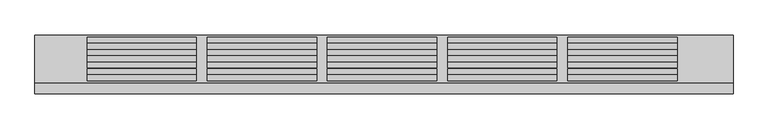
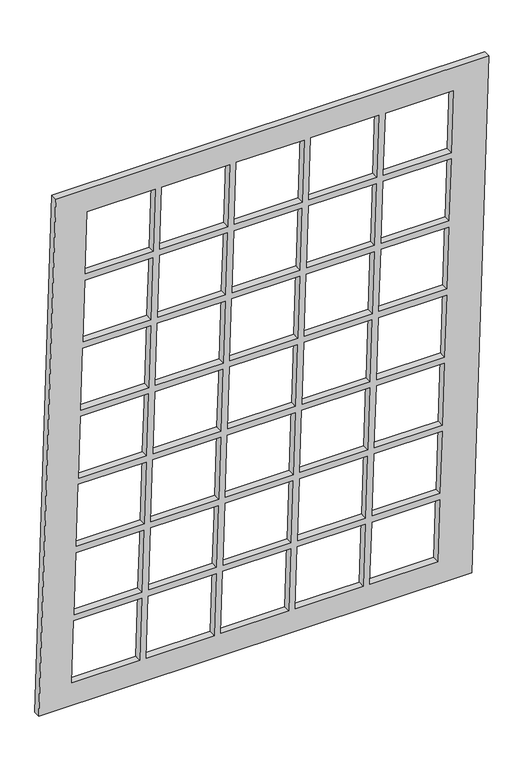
"""IFC4 building model written with IfcOpenShell, lengths in millimetres: furniture geometry, Kletteranlage : Kletteranlage."""

import ifcopenshell
import ifcopenshell.guid

model = None  # the IFC model being written
_history = None  # IfcOwnerHistory: only IFC2X3 demands one
_inside = {}  # id of a spatial element -> (the spatial element, [elements in it])
_under = {}  # id of a project, library or spatial element -> (it, [spatial elements below it])
_declared = {}  # id of a project -> (the project, [libraries it declares])
_typed = {}  # id of a type object -> (the type object, [elements of that type])
_made_of = {}  # id of a material, layer set ... -> (it, [elements and type objects made of it])


def new_model(schema):
    """Start an empty IFC model of exactly this schema.

    Asked for "IFC4X3", IfcOpenShell would pick the latest addendum, in which some entities
    have other attributes; the version numbers below select the first issue.
    IFC2X3 requires an IfcOwnerHistory on every rooted entity: one is made here for all.
    """
    global model, _history
    if schema == "IFC4X3":
        model = ifcopenshell.file(schema_version=(4, 3, 0, 0))
    else:
        model = ifcopenshell.file(schema=schema)
    _inside.clear()
    _under.clear()
    _declared.clear()
    _typed.clear()
    _made_of.clear()
    _history = None
    if model.schema == "IFC2X3":
        org = make("IfcOrganization", Name="unknown")
        user = make(
            "IfcPersonAndOrganization",
            ThePerson=make("IfcPerson", FamilyName="unknown"),
            TheOrganization=org,
        )
        app = make(
            "IfcApplication",
            ApplicationDeveloper=org,
            Version="unknown",
            ApplicationFullName="unknown",
            ApplicationIdentifier="unknown",
        )
        _history = make(
            "IfcOwnerHistory",
            OwningUser=user,
            OwningApplication=app,
            ChangeAction="ADDED",
            CreationDate=0,
        )
    return model


def make(cls, **values):
    """One entity of the class cls with the attributes given. An attribute that is None is left unset."""
    return model.create_entity(
        cls, **{name: value for name, value in values.items() if value is not None}
    )


def rooted(cls, **values):
    """An entity with a GlobalId (a new one), such as an element, a storey or a relation."""
    return make(cls, GlobalId=ifcopenshell.guid.new(), OwnerHistory=_history, **values)


def si_unit(unit_type, name, prefix=None):
    """IfcSIUnit, for example si_unit("LENGTHUNIT", "METRE", prefix="MILLI")."""
    return make("IfcSIUnit", UnitType=unit_type, Prefix=prefix, Name=name)


def assignment(units):
    """IfcUnitAssignment: the units of a project."""
    return None if units is None else make("IfcUnitAssignment", Units=units)


def point(xyz):
    """IfcCartesianPoint."""
    return None if xyz is None else make("IfcCartesianPoint", Coordinates=xyz)


def direction(xyz):
    """IfcDirection."""
    return None if xyz is None else make("IfcDirection", DirectionRatios=xyz)


def frame(location, z_axis=None, x_axis=None):
    """IfcAxis2Placement3D, a coordinate frame: its origin and axes. An axis left out is left unset."""
    return make(
        "IfcAxis2Placement3D",
        Location=point(location),
        Axis=direction(z_axis),
        RefDirection=direction(x_axis),
    )


def origin():
    """The frame at (0, 0, 0) with its axes left unset."""
    return frame((0.0, 0.0, 0.0))


def place(relative_to, where):
    """IfcLocalPlacement: puts the frame where relative to a parent placement (None: the world)."""
    return make(
        "IfcLocalPlacement", PlacementRelTo=relative_to, RelativePlacement=where
    )


def context(
    kind, dimensions, precision=None, world=None, true_north=None, identifier=None
):
    """IfcGeometricRepresentationContext, for example the 3D "Model" context."""
    return make(
        "IfcGeometricRepresentationContext",
        ContextIdentifier=identifier,
        ContextType=kind,
        CoordinateSpaceDimension=dimensions,
        Precision=precision,
        WorldCoordinateSystem=world,
        TrueNorth=true_north,
    )


def project(units=None, contexts=None):
    """IfcProject with its units and contexts."""
    return rooted(
        "IfcProject",
        Name="project",
        RepresentationContexts=contexts,
        UnitsInContext=assignment(units),
    )


def spatial(cls, under=None, at=None, **own):
    """A site, building, storey or space (cls), placed at a placement, below another one or the project."""
    s = rooted(cls, ObjectPlacement=at, **own)
    if under is not None:
        _under.setdefault(under.id(), (under, []))[1].append(s)
    return s


def faces_of(points, faces, orient=None, outer=None):
    """IfcFace entities. A face is a list of loops; a loop is a list of indices into points, from 0.

    orient and outer hold one flag for each loop. By default every Orientation is true, the
    first loop of a face is its IfcFaceOuterBound and the others are IfcFaceBound.
    """
    made = []
    for i, loops in enumerate(faces):
        bounds = []
        for j, loop in enumerate(loops):
            is_outer = j == 0 if outer is None else outer[i][j]
            bounds.append(
                make(
                    "IfcFaceOuterBound" if is_outer else "IfcFaceBound",
                    Bound=make("IfcPolyLoop", Polygon=[points[k] for k in loop]),
                    Orientation=True if orient is None else orient[i][j],
                )
            )
        made.append(make("IfcFace", Bounds=bounds))
    return made


def faceted_brep(points, faces, orient=None, outer=None, voids=None):
    """IfcFacetedBrep: a solid bounded by flat faces; with voids (closed shells), ...WithVoids."""
    shared = [point(p) for p in points]
    hull = make("IfcClosedShell", CfsFaces=faces_of(shared, faces, orient, outer))
    if voids is None:
        return make("IfcFacetedBrep", Outer=hull)
    return make(
        "IfcFacetedBrepWithVoids",
        Outer=hull,
        Voids=[
            make(cls, CfsFaces=faces_of(shared, fs, o, b)) for cls, fs, o, b in voids
        ],
    )


def shape(context_of_items, identifier, shape_type, items):
    """IfcShapeRepresentation: the items that make up one representation, for example the "Body"."""
    return make(
        "IfcShapeRepresentation",
        ContextOfItems=context_of_items,
        RepresentationIdentifier=identifier,
        RepresentationType=shape_type,
        Items=items,
    )


def source(mapping_origin, context_of_items, identifier, shape_type, items):
    """IfcRepresentationMap: a shape defined once, which mapped items show again and again."""
    return make(
        "IfcRepresentationMap",
        MappingOrigin=mapping_origin,
        MappedRepresentation=shape(context_of_items, identifier, shape_type, items),
    )


def transform(
    local_origin,
    x_axis=None,
    y_axis=None,
    z_axis=None,
    scale=None,
    scale2=None,
    scale3=None,
    uniform=True,
):
    """IfcCartesianTransformationOperator3D, or its non-uniform kind. x_axis, y_axis, z_axis: its Axis1, 2, 3."""
    if uniform:
        return make(
            "IfcCartesianTransformationOperator3D",
            Axis1=direction(x_axis),
            Axis2=direction(y_axis),
            LocalOrigin=point(local_origin),
            Scale=scale,
            Axis3=direction(z_axis),
        )
    return make(
        "IfcCartesianTransformationOperator3DnonUniform",
        Axis1=direction(x_axis),
        Axis2=direction(y_axis),
        LocalOrigin=point(local_origin),
        Scale=scale,
        Axis3=direction(z_axis),
        Scale2=scale2,
        Scale3=scale3,
    )


def mapped(mapping_source, mapping_target):
    """IfcMappedItem: shows the shape of a source again, moved by a transform."""
    return make(
        "IfcMappedItem", MappingSource=mapping_source, MappingTarget=mapping_target
    )


def made_of(thing, what):
    """Note that an element or type object is made of a material, layer set ...; save() writes the relation."""
    if what is not None:
        _made_of.setdefault(what.id(), (what, []))[1].append(thing)
    return thing


def element(
    cls,
    number,
    at=None,
    inside=None,
    cuts=None,
    type_object=None,
    material=None,
    context=None,
    identifier="Body",
    shape_type=None,
    held_by="IfcProductDefinitionShape",
    body=None,
    shapes=None,
    **own,
):
    """One element of the class cls, such as IfcWall. Its Tag is "e" and its number.

    at: its placement. inside: the storey or other place that contains it. cuts: it is an
    opening in that element (IfcRelVoidsElement). A single representation is given by context,
    identifier, shape_type and body (its items); several are given by shapes. held_by: the class
    of the entity that holds the representations. save() writes the other relations.
    """
    e = rooted(cls, Tag="e%d" % number, ObjectPlacement=at, **own)
    if body is not None:
        shapes = [shape(context, identifier, shape_type, body)]
    if shapes is not None:
        e.Representation = make(held_by, Representations=shapes)
    if inside is not None:
        _inside.setdefault(inside.id(), (inside, []))[1].append(e)
    if cuts is not None:
        rooted(
            "IfcRelVoidsElement", RelatingBuildingElement=cuts, RelatedOpeningElement=e
        )
    if type_object is not None:
        _typed.setdefault(type_object.id(), (type_object, []))[1].append(e)
    return made_of(e, material)


def aggregate(whole, parts):
    """IfcRelAggregates: a whole, such as a stair, and the parts it consists of."""
    return rooted("IfcRelAggregates", RelatingObject=whole, RelatedObjects=parts)


def save(model, path):
    """Write the relations noted so far, then the file.

    IfcRelAggregates (storeys below a building ...), IfcRelContainedInSpatialStructure (elements
    in a storey), IfcRelDefinesByType, IfcRelAssociatesMaterial and IfcRelDeclares: one each for
    every whole, place, type object, material and project.
    """
    for whole, parts in _under.values():
        aggregate(whole, parts)
    for where, things in _inside.values():
        rooted(
            "IfcRelContainedInSpatialStructure",
            RelatedElements=things,
            RelatingStructure=where,
        )
    for kind, things in _typed.values():
        rooted("IfcRelDefinesByType", RelatedObjects=things, RelatingType=kind)
    for what, things in _made_of.values():
        rooted("IfcRelAssociatesMaterial", RelatedObjects=things, RelatingMaterial=what)
    for by, libraries in _declared.values():
        rooted("IfcRelDeclares", RelatingContext=by, RelatedDefinitions=libraries)
    model.write(path)


def furniture_e2d0ad92(model_context):
    return source(origin(), model_context, "Body", "Brep", [
        faceted_brep([(-958.8409407, -268.0468951, 2520.0), (957.5253808, -268.0468951, 2520.0), (957.5253808, -238.0057247, 2520.0), (-958.8409407, -238.0057247, 2520.0), (957.5253808, -137.0274469, 20.0), (-958.8409407, -137.0274469, 20.0), (-958.8409407, -106.9862765, 20.0), (957.5253808, -106.9862765, 20.0), (-815.8409407, -262.1029837, 2406.5834134), (-515.8409407, -262.1029837, 2406.5834134), (-515.8409407, -246.4021968, 2106.994553), (-815.8409407, -246.4021968, 2106.994553), (-485.8409407, -262.1029837, 2406.5834134), (-185.8409407, -262.1029837, 2406.5834134), (-185.8409407, -246.4021968, 2106.994553), (-485.8409407, -246.4021968, 2106.994553), (-155.8409407, -262.1029837, 2406.5834134), (144.1590593, -262.1029837, 2406.5834134), (144.1590593, -246.4021968, 2106.994553), (-155.8409407, -246.4021968, 2106.994553), (174.1590593, -262.1029837, 2406.5834134), (474.1590593, -262.1029837, 2406.5834134), (474.1590593, -246.4021968, 2106.994553), (174.1590593, -246.4021968, 2106.994553), (504.1590593, -262.1029837, 2406.5834134), (804.1590593, -262.1029837, 2406.5834134), (804.1590593, -246.4021968, 2106.994553), (504.1590593, -246.4021968, 2106.994553), (-815.8409407, -244.8321181, 2077.035667), (-515.8409407, -244.8321181, 2077.035667), (-515.8409407, -229.1313313, 1777.4468065), (-815.8409407, -229.1313313, 1777.4468065), (-485.8409407, -244.8321181, 2077.035667), (-185.8409407, -244.8321181, 2077.035667), (-185.8409407, -229.1313313, 1777.4468065), (-485.8409407, -229.1313313, 1777.4468065), (-155.8409407, -244.8321181, 2077.035667), (144.1590593, -244.8321181, 2077.035667), (144.1590593, -229.1313313, 1777.4468065), (-155.8409407, -229.1313313, 1777.4468065), (174.1590593, -244.8321181, 2077.035667), (474.1590593, -244.8321181, 2077.035667), (474.1590593, -229.1313313, 1777.4468065), (174.1590593, -229.1313313, 1777.4468065), (504.1590593, -244.8321181, 2077.035667), (804.1590593, -244.8321181, 2077.035667), (804.1590593, -229.1313313, 1777.4468065), (504.1590593, -229.1313313, 1777.4468065), (-815.8409407, -227.5612526, 1747.4879205), (-515.8409407, -227.5612526, 1747.4879205), (-515.8409407, -211.8604657, 1447.8990601), (-815.8409407, -211.8604657, 1447.8990601), (-485.8409407, -227.5612526, 1747.4879205), (-185.8409407, -227.5612526, 1747.4879205), (-185.8409407, -211.8604657, 1447.8990601), (-485.8409407, -211.8604657, 1447.8990601), (-155.8409407, -227.5612526, 1747.4879205), (144.1590593, -227.5612526, 1747.4879205), (144.1590593, -211.8604657, 1447.8990601), (-155.8409407, -211.8604657, 1447.8990601), (174.1590593, -227.5612526, 1747.4879205), (474.1590593, -227.5612526, 1747.4879205), (474.1590593, -211.8604657, 1447.8990601), (174.1590593, -211.8604657, 1447.8990601), (504.1590593, -227.5612526, 1747.4879205), (804.1590593, -227.5612526, 1747.4879205), (804.1590593, -211.8604657, 1447.8990601), (504.1590593, -211.8604657, 1447.8990601), (-815.8409407, -210.290387, 1417.940174), (-515.8409407, -210.290387, 1417.940174), (-515.8409407, -194.5896001, 1118.3513136), (-815.8409407, -194.5896001, 1118.3513136), (-485.8409407, -210.290387, 1417.940174), (-185.8409407, -210.290387, 1417.940174), (-185.8409407, -194.5896001, 1118.3513136), (-485.8409407, -194.5896001, 1118.3513136), (-155.8409407, -210.290387, 1417.940174), (144.1590593, -210.290387, 1417.940174), (144.1590593, -194.5896001, 1118.3513136), (-155.8409407, -194.5896001, 1118.3513136), (174.1590593, -210.290387, 1417.940174), (474.1590593, -210.290387, 1417.940174), (474.1590593, -194.5896001, 1118.3513136), (174.1590593, -194.5896001, 1118.3513136), (504.1590593, -210.290387, 1417.940174), (804.1590593, -210.290387, 1417.940174), (804.1590593, -194.5896001, 1118.3513136), (504.1590593, -194.5896001, 1118.3513136), (-815.8409407, -193.0195215, 1088.3924275), (-515.8409407, -193.0195215, 1088.3924275), (-515.8409407, -177.3187346, 788.8035671), (-815.8409407, -177.3187346, 788.8035671), (-485.8409407, -193.0195215, 1088.3924275), (-185.8409407, -193.0195215, 1088.3924275), (-185.8409407, -177.3187346, 788.8035671), (-485.8409407, -177.3187346, 788.8035671), (-155.8409407, -193.0195215, 1088.3924275), (144.1590593, -193.0195215, 1088.3924275), (144.1590593, -177.3187346, 788.8035671), (-155.8409407, -177.3187346, 788.8035671), (174.1590593, -193.0195215, 1088.3924275), (474.1590593, -193.0195215, 1088.3924275), (474.1590593, -177.3187346, 788.8035671), (174.1590593, -177.3187346, 788.8035671), (504.1590593, -193.0195215, 1088.3924275), (804.1590593, -193.0195215, 1088.3924275), (804.1590593, -177.3187346, 788.8035671), (504.1590593, -177.3187346, 788.8035671), (-815.8409407, -175.7486559, 758.8446811), (-515.8409407, -175.7486559, 758.8446811), (-515.8409407, -160.047869, 459.2558206), (-815.8409407, -160.047869, 459.2558206), (-485.8409407, -175.7486559, 758.8446811), (-185.8409407, -175.7486559, 758.8446811), (-185.8409407, -160.047869, 459.2558206), (-485.8409407, -160.047869, 459.2558206), (-155.8409407, -175.7486559, 758.8446811), (144.1590593, -175.7486559, 758.8446811), (144.1590593, -160.047869, 459.2558206), (-155.8409407, -160.047869, 459.2558206), (174.1590593, -175.7486559, 758.8446811), (474.1590593, -175.7486559, 758.8446811), (474.1590593, -160.047869, 459.2558206), (174.1590593, -160.047869, 459.2558206), (504.1590593, -175.7486559, 758.8446811), (804.1590593, -175.7486559, 758.8446811), (804.1590593, -160.047869, 459.2558206), (504.1590593, -160.047869, 459.2558206), (-815.8409407, -158.4777903, 429.2969346), (-515.8409407, -158.4777903, 429.2969346), (-515.8409407, -142.7770035, 129.7080742), (-815.8409407, -142.7770035, 129.7080742), (-485.8409407, -158.4777903, 429.2969346), (-185.8409407, -158.4777903, 429.2969346), (-185.8409407, -142.7770035, 129.7080742), (-485.8409407, -142.7770035, 129.7080742), (-155.8409407, -158.4777903, 429.2969346), (144.1590593, -158.4777903, 429.2969346), (144.1590593, -142.7770035, 129.7080742), (-155.8409407, -142.7770035, 129.7080742), (174.1590593, -158.4777903, 429.2969346), (474.1590593, -158.4777903, 429.2969346), (474.1590593, -142.7770035, 129.7080742), (174.1590593, -142.7770035, 129.7080742), (504.1590593, -158.4777903, 429.2969346), (804.1590593, -158.4777903, 429.2969346), (804.1590593, -142.7770035, 129.7080742), (504.1590593, -142.7770035, 129.7080742), (-815.8409407, -216.4433108, 2108.5646317), (-515.8409407, -216.4433108, 2108.5646317), (-515.8409407, -232.1440976, 2408.1534921), (-815.8409407, -232.1440976, 2408.1534921), (-485.8409407, -216.4433108, 2108.5646317), (-185.8409407, -216.4433108, 2108.5646317), (-185.8409407, -232.1440976, 2408.1534921), (-485.8409407, -232.1440976, 2408.1534921), (-155.8409407, -216.4433108, 2108.5646317), (144.1590593, -216.4433108, 2108.5646317), (144.1590593, -232.1440976, 2408.1534921), (-155.8409407, -232.1440976, 2408.1534921), (174.1590593, -216.4433108, 2108.5646317), (474.1590593, -216.4433108, 2108.5646317), (474.1590593, -232.1440976, 2408.1534921), (174.1590593, -232.1440976, 2408.1534921), (504.1590593, -216.4433108, 2108.5646317), (804.1590593, -216.4433108, 2108.5646317), (804.1590593, -232.1440976, 2408.1534921), (504.1590593, -232.1440976, 2408.1534921), (-815.8409407, -199.1724452, 1779.0168852), (-515.8409407, -199.1724452, 1779.0168852), (-515.8409407, -214.8732321, 2078.6057456), (-815.8409407, -214.8732321, 2078.6057456), (-485.8409407, -199.1724452, 1779.0168852), (-185.8409407, -199.1724452, 1779.0168852), (-185.8409407, -214.8732321, 2078.6057456), (-485.8409407, -214.8732321, 2078.6057456), (-155.8409407, -199.1724452, 1779.0168852), (144.1590593, -199.1724452, 1779.0168852), (144.1590593, -214.8732321, 2078.6057456), (-155.8409407, -214.8732321, 2078.6057456), (174.1590593, -199.1724452, 1779.0168852), (474.1590593, -199.1724452, 1779.0168852), (474.1590593, -214.8732321, 2078.6057456), (174.1590593, -214.8732321, 2078.6057456), (504.1590593, -199.1724452, 1779.0168852), (804.1590593, -199.1724452, 1779.0168852), (804.1590593, -214.8732321, 2078.6057456), (504.1590593, -214.8732321, 2078.6057456), (-815.8409407, -181.9015797, 1449.4691387), (-515.8409407, -181.9015797, 1449.4691387), (-515.8409407, -197.6023665, 1749.0579992), (-815.8409407, -197.6023665, 1749.0579992), (-485.8409407, -181.9015797, 1449.4691387), (-185.8409407, -181.9015797, 1449.4691387), (-185.8409407, -197.6023665, 1749.0579992), (-485.8409407, -197.6023665, 1749.0579992), (-155.8409407, -181.9015797, 1449.4691387), (144.1590593, -181.9015797, 1449.4691387), (144.1590593, -197.6023665, 1749.0579992), (-155.8409407, -197.6023665, 1749.0579992), (174.1590593, -181.9015797, 1449.4691387), (474.1590593, -181.9015797, 1449.4691387), (474.1590593, -197.6023665, 1749.0579992), (174.1590593, -197.6023665, 1749.0579992), (504.1590593, -181.9015797, 1449.4691387), (804.1590593, -181.9015797, 1449.4691387), (804.1590593, -197.6023665, 1749.0579992), (504.1590593, -197.6023665, 1749.0579992), (-815.8409407, -164.6307141, 1119.9213923), (-515.8409407, -164.6307141, 1119.9213923), (-515.8409407, -180.331501, 1419.5102527), (-815.8409407, -180.331501, 1419.5102527), (-485.8409407, -164.6307141, 1119.9213923), (-185.8409407, -164.6307141, 1119.9213923), (-185.8409407, -180.331501, 1419.5102527), (-485.8409407, -180.331501, 1419.5102527), (-155.8409407, -164.6307141, 1119.9213923), (144.1590593, -164.6307141, 1119.9213923), (144.1590593, -180.331501, 1419.5102527), (-155.8409407, -180.331501, 1419.5102527), (174.1590593, -164.6307141, 1119.9213923), (474.1590593, -164.6307141, 1119.9213923), (474.1590593, -180.331501, 1419.5102527), (174.1590593, -180.331501, 1419.5102527), (504.1590593, -164.6307141, 1119.9213923), (804.1590593, -164.6307141, 1119.9213923), (804.1590593, -180.331501, 1419.5102527), (504.1590593, -180.331501, 1419.5102527), (-815.8409407, -147.3598485, 790.3736458), (-515.8409407, -147.3598485, 790.3736458), (-515.8409407, -163.0606354, 1089.9625062), (-815.8409407, -163.0606354, 1089.9625062), (-485.8409407, -147.3598485, 790.3736458), (-185.8409407, -147.3598485, 790.3736458), (-185.8409407, -163.0606354, 1089.9625062), (-485.8409407, -163.0606354, 1089.9625062), (-155.8409407, -147.3598485, 790.3736458), (144.1590593, -147.3598485, 790.3736458), (144.1590593, -163.0606354, 1089.9625062), (-155.8409407, -163.0606354, 1089.9625062), (174.1590593, -147.3598485, 790.3736458), (474.1590593, -147.3598485, 790.3736458), (474.1590593, -163.0606354, 1089.9625062), (174.1590593, -163.0606354, 1089.9625062), (504.1590593, -147.3598485, 790.3736458), (804.1590593, -147.3598485, 790.3736458), (804.1590593, -163.0606354, 1089.9625062), (504.1590593, -163.0606354, 1089.9625062), (-815.8409407, -130.088983, 460.8258993), (-515.8409407, -130.088983, 460.8258993), (-515.8409407, -145.7897698, 760.4147598), (-815.8409407, -145.7897698, 760.4147598), (-485.8409407, -130.088983, 460.8258993), (-185.8409407, -130.088983, 460.8258993), (-185.8409407, -145.7897698, 760.4147598), (-485.8409407, -145.7897698, 760.4147598), (-155.8409407, -130.088983, 460.8258993), (144.1590593, -130.088983, 460.8258993), (144.1590593, -145.7897698, 760.4147598), (-155.8409407, -145.7897698, 760.4147598), (174.1590593, -130.088983, 460.8258993), (474.1590593, -130.088983, 460.8258993), (474.1590593, -145.7897698, 760.4147598), (174.1590593, -145.7897698, 760.4147598), (504.1590593, -130.088983, 460.8258993), (804.1590593, -130.088983, 460.8258993), (804.1590593, -145.7897698, 760.4147598), (504.1590593, -145.7897698, 760.4147598), (-815.8409407, -112.8181174, 131.2781529), (-515.8409407, -112.8181174, 131.2781529), (-515.8409407, -128.5189043, 430.8670133), (-815.8409407, -128.5189043, 430.8670133), (-485.8409407, -112.8181174, 131.2781529), (-185.8409407, -112.8181174, 131.2781529), (-185.8409407, -128.5189043, 430.8670133), (-485.8409407, -128.5189043, 430.8670133), (-155.8409407, -112.8181174, 131.2781529), (144.1590593, -112.8181174, 131.2781529), (144.1590593, -128.5189043, 430.8670133), (-155.8409407, -128.5189043, 430.8670133), (174.1590593, -112.8181174, 131.2781529), (474.1590593, -112.8181174, 131.2781529), (474.1590593, -128.5189043, 430.8670133), (174.1590593, -128.5189043, 430.8670133), (504.1590593, -112.8181174, 131.2781529), (804.1590593, -112.8181174, 131.2781529), (804.1590593, -128.5189043, 430.8670133), (504.1590593, -128.5189043, 430.8670133)], [[[0, 1, 2, 3]], [[4, 5, 6, 7]], [[3, 6, 5, 0]], [[1, 4, 7, 2]], [[0, 5, 4, 1], [8, 9, 10, 11], [12, 13, 14, 15], [16, 17, 18, 19], [20, 21, 22, 23], [24, 25, 26, 27], [28, 29, 30, 31], [32, 33, 34, 35], [36, 37, 38, 39], [40, 41, 42, 43], [44, 45, 46, 47], [48, 49, 50, 51], [52, 53, 54, 55], [56, 57, 58, 59], [60, 61, 62, 63], [64, 65, 66, 67], [68, 69, 70, 71], [72, 73, 74, 75], [76, 77, 78, 79], [80, 81, 82, 83], [84, 85, 86, 87], [88, 89, 90, 91], [92, 93, 94, 95], [96, 97, 98, 99], [100, 101, 102, 103], [104, 105, 106, 107], [108, 109, 110, 111], [112, 113, 114, 115], [116, 117, 118, 119], [120, 121, 122, 123], [124, 125, 126, 127], [128, 129, 130, 131], [132, 133, 134, 135], [136, 137, 138, 139], [140, 141, 142, 143], [144, 145, 146, 147]], [[2, 7, 6, 3], [148, 149, 150, 151], [152, 153, 154, 155], [156, 157, 158, 159], [160, 161, 162, 163], [164, 165, 166, 167], [168, 169, 170, 171], [172, 173, 174, 175], [176, 177, 178, 179], [180, 181, 182, 183], [184, 185, 186, 187], [188, 189, 190, 191], [192, 193, 194, 195], [196, 197, 198, 199], [200, 201, 202, 203], [204, 205, 206, 207], [208, 209, 210, 211], [212, 213, 214, 215], [216, 217, 218, 219], [220, 221, 222, 223], [224, 225, 226, 227], [228, 229, 230, 231], [232, 233, 234, 235], [236, 237, 238, 239], [240, 241, 242, 243], [244, 245, 246, 247], [248, 249, 250, 251], [252, 253, 254, 255], [256, 257, 258, 259], [260, 261, 262, 263], [264, 265, 266, 267], [268, 269, 270, 271], [272, 273, 274, 275], [276, 277, 278, 279], [280, 281, 282, 283], [284, 285, 286, 287]], [[148, 151, 8, 11]], [[151, 150, 9, 8]], [[150, 149, 10, 9]], [[11, 10, 149, 148]], [[152, 155, 12, 15]], [[155, 154, 13, 12]], [[154, 153, 14, 13]], [[15, 14, 153, 152]], [[156, 159, 16, 19]], [[159, 158, 17, 16]], [[158, 157, 18, 17]], [[19, 18, 157, 156]], [[160, 163, 20, 23]], [[163, 162, 21, 20]], [[162, 161, 22, 21]], [[23, 22, 161, 160]], [[164, 167, 24, 27]], [[167, 166, 25, 24]], [[166, 165, 26, 25]], [[27, 26, 165, 164]], [[168, 171, 28, 31]], [[171, 170, 29, 28]], [[170, 169, 30, 29]], [[31, 30, 169, 168]], [[172, 175, 32, 35]], [[175, 174, 33, 32]], [[174, 173, 34, 33]], [[35, 34, 173, 172]], [[176, 179, 36, 39]], [[179, 178, 37, 36]], [[178, 177, 38, 37]], [[39, 38, 177, 176]], [[180, 183, 40, 43]], [[183, 182, 41, 40]], [[182, 181, 42, 41]], [[43, 42, 181, 180]], [[184, 187, 44, 47]], [[187, 186, 45, 44]], [[186, 185, 46, 45]], [[47, 46, 185, 184]], [[188, 191, 48, 51]], [[191, 190, 49, 48]], [[190, 189, 50, 49]], [[51, 50, 189, 188]], [[192, 195, 52, 55]], [[195, 194, 53, 52]], [[194, 193, 54, 53]], [[55, 54, 193, 192]], [[196, 199, 56, 59]], [[199, 198, 57, 56]], [[198, 197, 58, 57]], [[59, 58, 197, 196]], [[200, 203, 60, 63]], [[203, 202, 61, 60]], [[202, 201, 62, 61]], [[63, 62, 201, 200]], [[204, 207, 64, 67]], [[207, 206, 65, 64]], [[206, 205, 66, 65]], [[67, 66, 205, 204]], [[208, 211, 68, 71]], [[211, 210, 69, 68]], [[210, 209, 70, 69]], [[71, 70, 209, 208]], [[212, 215, 72, 75]], [[215, 214, 73, 72]], [[214, 213, 74, 73]], [[75, 74, 213, 212]], [[216, 219, 76, 79]], [[219, 218, 77, 76]], [[218, 217, 78, 77]], [[79, 78, 217, 216]], [[220, 223, 80, 83]], [[223, 222, 81, 80]], [[222, 221, 82, 81]], [[83, 82, 221, 220]], [[224, 227, 84, 87]], [[227, 226, 85, 84]], [[226, 225, 86, 85]], [[87, 86, 225, 224]], [[228, 231, 88, 91]], [[231, 230, 89, 88]], [[230, 229, 90, 89]], [[91, 90, 229, 228]], [[232, 235, 92, 95]], [[235, 234, 93, 92]], [[234, 233, 94, 93]], [[95, 94, 233, 232]], [[236, 239, 96, 99]], [[239, 238, 97, 96]], [[238, 237, 98, 97]], [[99, 98, 237, 236]], [[240, 243, 100, 103]], [[243, 242, 101, 100]], [[242, 241, 102, 101]], [[103, 102, 241, 240]], [[244, 247, 104, 107]], [[247, 246, 105, 104]], [[246, 245, 106, 105]], [[107, 106, 245, 244]], [[248, 251, 108, 111]], [[251, 250, 109, 108]], [[250, 249, 110, 109]], [[111, 110, 249, 248]], [[252, 255, 112, 115]], [[255, 254, 113, 112]], [[254, 253, 114, 113]], [[115, 114, 253, 252]], [[256, 259, 116, 119]], [[259, 258, 117, 116]], [[258, 257, 118, 117]], [[119, 118, 257, 256]], [[260, 263, 120, 123]], [[263, 262, 121, 120]], [[262, 261, 122, 121]], [[123, 122, 261, 260]], [[264, 267, 124, 127]], [[267, 266, 125, 124]], [[266, 265, 126, 125]], [[127, 126, 265, 264]], [[268, 271, 128, 131]], [[271, 270, 129, 128]], [[270, 269, 130, 129]], [[131, 130, 269, 268]], [[272, 275, 132, 135]], [[275, 274, 133, 132]], [[274, 273, 134, 133]], [[135, 134, 273, 272]], [[276, 279, 136, 139]], [[279, 278, 137, 136]], [[278, 277, 138, 137]], [[139, 138, 277, 276]], [[280, 283, 140, 143]], [[283, 282, 141, 140]], [[282, 281, 142, 141]], [[143, 142, 281, 280]], [[284, 287, 144, 147]], [[287, 286, 145, 144]], [[286, 285, 146, 145]], [[147, 146, 285, 284]]]),
    ])


if __name__ == "__main__":
    model = new_model("IFC4")
    model_context = context("Model", 3, world=origin())
    ifc_project = project(units=[si_unit("LENGTHUNIT", "METRE", prefix="MILLI")], contexts=[model_context])
    site = spatial("IfcSite", under=ifc_project)
    building = spatial("IfcBuilding", under=site)
    placement = place(None, origin())
    furniture_shape = furniture_e2d0ad92(model_context)
    element("IfcFurniture", 1, ObjectType="Kletteranlage : Kletteranlage", at=placement, inside=building, context=model_context, shape_type="MappedRepresentation", body=[
        mapped(furniture_shape, transform((0.0, 0.0, 0.0), x_axis=(1.0, 0.0, 0.0), y_axis=(0.0, 1.0, 0.0), z_axis=(0.0, 0.0, 1.0))),
    ])
    save(model, "model.ifc")
